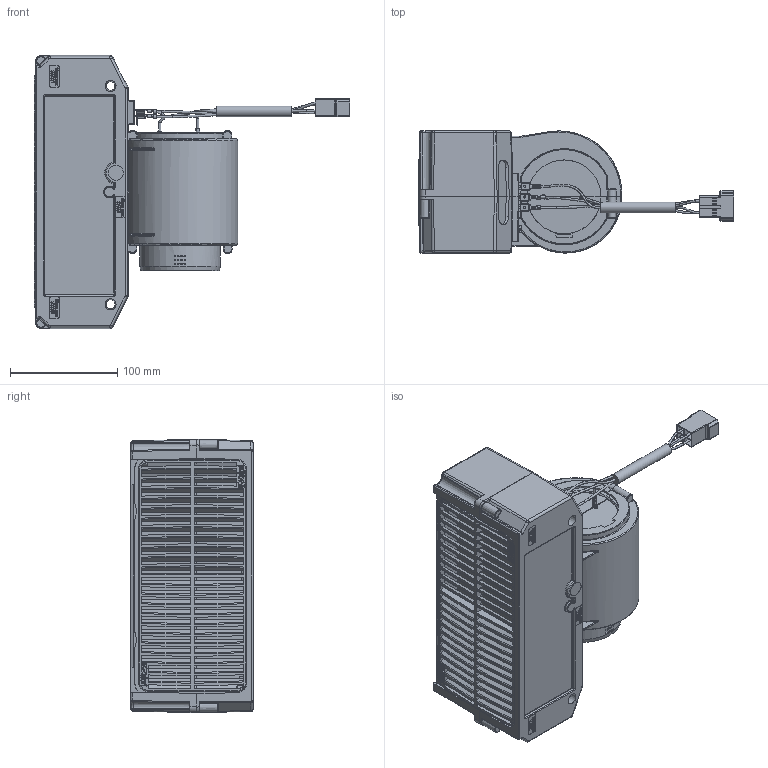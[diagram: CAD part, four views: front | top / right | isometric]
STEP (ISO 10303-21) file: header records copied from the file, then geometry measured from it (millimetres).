
FILE_DESCRIPTION(('STEP AP214'),'1');
FILE_NAME('120.33.202 KELEC EVO1 G 12V48V IND=A.stp','2015-01-21T09:18:10',(' '),(' '),'Spatial InterOp 3D',' ',' ');
FILE_SCHEMA(('automotive_design'));
Length unit declared in the file: millimetre
Products named in the file (456): Faisceau elec EVO1 Alizé2; Grille Compact EVO1/2; Resistance 0.45R_0.9R_216; Caisse supérieure Compact EVO1; Caisse inférieure Compact EVO1
Assembly tree (455 placements, depth 3):
  (unnamed)
    Faisceau elec EVO1 Alizé2
      Faisceau elec EVO1 Alizé2
      Faisceau elec EVO1 Alizé2
      Faisceau elec EVO1 Alizé2
      Faisceau elec EVO1 Alizé2
      Faisceau elec EVO1 Alizé2
      Faisceau elec EVO1 Alizé2
      Faisceau elec EVO1 Alizé2
      Faisceau elec EVO1 Alizé2
      Faisceau elec EVO1 Alizé2
      Faisceau elec EVO1 Alizé2
      Faisceau elec EVO1 Alizé2
      Faisceau elec EVO1 Alizé2
      Faisceau elec EVO1 Alizé2
      Faisceau elec EVO1 Alizé2
      Faisceau elec EVO1 Alizé2
      Faisceau elec EVO1 Alizé2
      Faisceau elec EVO1 Alizé2
      Faisceau elec EVO1 Alizé2
      Faisceau elec EVO1 Alizé2
      Faisceau elec EVO1 Alizé2
      Faisceau elec EVO1 Alizé2
      Faisceau elec EVO1 Alizé2
      Faisceau elec EVO1 Alizé2
      Faisceau elec EVO1 Alizé2
      Faisceau elec EVO1 Alizé2
      Faisceau elec EVO1 Alizé2
      Faisceau elec EVO1 Alizé2
      Faisceau elec EVO1 Alizé2
      Faisceau elec EVO1 Alizé2
      Faisceau elec EVO1 Alizé2
      Faisceau elec EVO1 Alizé2
      Faisceau elec EVO1 Alizé2
      Faisceau elec EVO1 Alizé2
      Faisceau elec EVO1 Alizé2
      Faisceau elec EVO1 Alizé2
      Faisceau elec EVO1 Alizé2
      Faisceau elec EVO1 Alizé2
      Faisceau elec EVO1 Alizé2
      Faisceau elec EVO1 Alizé2
      Faisceau elec EVO1 Alizé2
      Faisceau elec EVO1 Alizé2
      Faisceau elec EVO1 Alizé2
      Faisceau elec EVO1 Alizé2
      Faisceau elec EVO1 Alizé2
      Faisceau elec EVO1 Alizé2
      Faisceau elec EVO1 Alizé2
      Faisceau elec EVO1 Alizé2
      Faisceau elec EVO1 Alizé2
      Faisceau elec EVO1 Alizé2
      Faisceau elec EVO1 Alizé2
      Faisceau elec EVO1 Alizé2
      Faisceau elec EVO1 Alizé2
      Faisceau elec EVO1 Alizé2
      Faisceau elec EVO1 Alizé2
      Faisceau elec EVO1 Alizé2
      Faisceau elec EVO1 Alizé2
      Faisceau elec EVO1 Alizé2
      Faisceau elec EVO1 Alizé2
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Bounding box: 294.75 x 114 x 255 mm (x, y, z)
Volume: 4142388.6 mm3; surface area: 484119.4 mm2
Topology: 36 solids, 468 shells, 4882 faces, 14181 edges, 10078 vertices
Faces by surface type: plane 2680, cylinder 727, bspline 711, extrusion 440, revolution 101, cone 91, sphere 74, torus 58
Full cylindrical faces by diameter (mm): 1.032 x3, 1.093 x2, 2 x17, 2.9 x6, 3 x2, 3.7 x2, 4 x2, 4.1 x4, 5 x2, 7.589 x1, 10 x1, 14 x1, 15 x1
Entity records: 256447 total; most frequent: CARTESIAN_POINT 89746, ORIENTED_EDGE 25495, DIRECTION 19988, EDGE_CURVE 14003, VERTEX_POINT 10041, VECTOR 7491, LINE 7051, AXIS2_PLACEMENT_3D 6198
